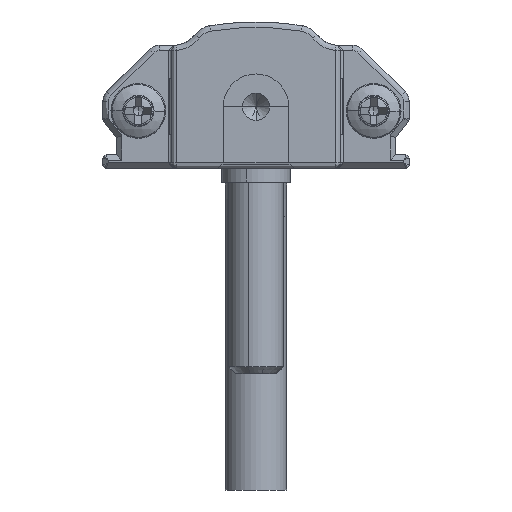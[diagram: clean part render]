
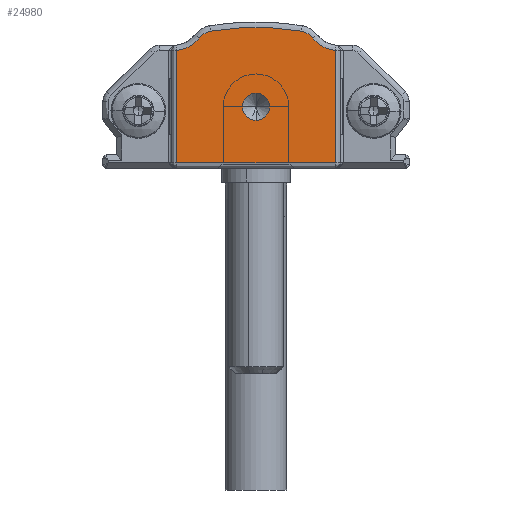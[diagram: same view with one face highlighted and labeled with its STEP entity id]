
A CAD part, front view. The second image highlights one B-rep face of the part: STEP entity #24980.
In plain terms, the highlighted planar face has unit normal (0, -1, 0).
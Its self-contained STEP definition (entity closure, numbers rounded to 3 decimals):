
#325 = AXIS2_PLACEMENT_3D ( 'NONE', #24489, #22154, #24653 ) ;
#595 = CIRCLE ( 'NONE', #7579, 1. ) ;
#795 = CIRCLE ( 'NONE', #23765, 2.4 ) ;
#920 = DIRECTION ( 'NONE',  ( 0., -1., 0. ) ) ;
#1006 = VERTEX_POINT ( 'NONE', #32678 ) ;
#1010 = VERTEX_POINT ( 'NONE', #18860 ) ;
#1564 = VERTEX_POINT ( 'NONE', #16534 ) ;
#1835 = CARTESIAN_POINT ( 'NONE',  ( 14.508, -15., 10.034 ) ) ;
#1879 = EDGE_CURVE ( 'NONE', #9264, #24575, #11263, .T. ) ;
#2584 = AXIS2_PLACEMENT_3D ( 'NONE', #27669, #4766, #19806 ) ;
#3372 = AXIS2_PLACEMENT_3D ( 'NONE', #29374, #920, #13624 ) ;
#4047 = DIRECTION ( 'NONE',  ( 0., 0., -1. ) ) ;
#4766 = DIRECTION ( 'NONE',  ( 0., -1., 0. ) ) ;
#4857 = AXIS2_PLACEMENT_3D ( 'NONE', #12979, #23840, #25864 ) ;
#4992 = ORIENTED_EDGE ( 'NONE', *, *, #1879, .T. ) ;
#5084 = EDGE_LOOP ( 'NONE', ( #18666, #14431 ) ) ;
#5300 = AXIS2_PLACEMENT_3D ( 'NONE', #9245, #9573, #4047 ) ;
#5395 = VECTOR ( 'NONE', #18842, 1000. ) ;
#6004 = EDGE_CURVE ( 'NONE', #24575, #21968, #23463, .T. ) ;
#6293 = CARTESIAN_POINT ( 'NONE',  ( 5.162, -15., 11. ) ) ;
#7579 = AXIS2_PLACEMENT_3D ( 'NONE', #32863, #20148, #10316 ) ;
#8137 = VECTOR ( 'NONE', #28143, 1000. ) ;
#8553 = DIRECTION ( 'NONE',  ( 1., 0., 0. ) ) ;
#9177 = CARTESIAN_POINT ( 'NONE',  ( 17., -15., 8.612 ) ) ;
#9245 = CARTESIAN_POINT ( 'NONE',  ( 14.3, -15., 8.75 ) ) ;
#9264 = VERTEX_POINT ( 'NONE', #9177 ) ;
#9270 = ORIENTED_EDGE ( 'NONE', *, *, #17129, .T. ) ;
#9573 = DIRECTION ( 'NONE',  ( 0., -1., 0. ) ) ;
#9921 = AXIS2_PLACEMENT_3D ( 'NONE', #27300, #17599, #12096 ) ;
#10316 = DIRECTION ( 'NONE',  ( 0., 0., -1. ) ) ;
#10467 = VECTOR ( 'NONE', #8553, 1000. ) ;
#10973 = DIRECTION ( 'NONE',  ( 0., 0., -1. ) ) ;
#11263 = CIRCLE ( 'NONE', #4857, 2.4 ) ;
#12096 = DIRECTION ( 'NONE',  ( 0., 0., -1. ) ) ;
#12883 = VERTEX_POINT ( 'NONE', #20244 ) ;
#12979 = CARTESIAN_POINT ( 'NONE',  ( 17.238, -15., 11. ) ) ;
#13213 = ORIENTED_EDGE ( 'NONE', *, *, #20347, .T. ) ;
#13423 = EDGE_CURVE ( 'NONE', #21968, #1006, #17778, .T. ) ;
#13624 = DIRECTION ( 'NONE',  ( 0., 0., -1. ) ) ;
#14047 = ORIENTED_EDGE ( 'NONE', *, *, #13423, .T. ) ;
#14431 = ORIENTED_EDGE ( 'NONE', *, *, #23759, .F. ) ;
#15411 = LINE ( 'NONE', #22795, #8137 ) ;
#15735 = CIRCLE ( 'NONE', #9921, 1. ) ;
#16159 = FACE_BOUND ( 'NONE', #5084, .T. ) ;
#16534 = CARTESIAN_POINT ( 'NONE',  ( 5.4, -15., 8.612 ) ) ;
#16962 = PLANE ( 'NONE',  #325 ) ;
#17129 = EDGE_CURVE ( 'NONE', #19983, #1564, #795, .T. ) ;
#17553 = ORIENTED_EDGE ( 'NONE', *, *, #20706, .T. ) ;
#17599 = DIRECTION ( 'NONE',  ( 0., -1., 0. ) ) ;
#17778 = CIRCLE ( 'NONE', #3372, 20.676 ) ;
#18086 = VERTEX_POINT ( 'NONE', #20929 ) ;
#18459 = CARTESIAN_POINT ( 'NONE',  ( 17., -15., 0.4 ) ) ;
#18609 = EDGE_CURVE ( 'NONE', #1006, #19983, #31415, .T. ) ;
#18666 = ORIENTED_EDGE ( 'NONE', *, *, #20531, .F. ) ;
#18842 = DIRECTION ( 'NONE',  ( 0., 0., 1. ) ) ;
#18860 = CARTESIAN_POINT ( 'NONE',  ( 5.4, -15., 0.4 ) ) ;
#19006 = LINE ( 'NONE', #31392, #5395 ) ;
#19806 = DIRECTION ( 'NONE',  ( 0., 0., -1. ) ) ;
#19816 = VERTEX_POINT ( 'NONE', #18459 ) ;
#19983 = VERTEX_POINT ( 'NONE', #23237 ) ;
#20148 = DIRECTION ( 'NONE',  ( 0., -1., 0. ) ) ;
#20244 = CARTESIAN_POINT ( 'NONE',  ( 11.2, -15., 5.5 ) ) ;
#20347 = EDGE_CURVE ( 'NONE', #19816, #9264, #19006, .T. ) ;
#20531 = EDGE_CURVE ( 'NONE', #18086, #12883, #595, .T. ) ;
#20706 = EDGE_CURVE ( 'NONE', #1564, #1010, #15411, .T. ) ;
#20929 = CARTESIAN_POINT ( 'NONE',  ( 11.2, -15., 3.5 ) ) ;
#21216 = LINE ( 'NONE', #31116, #10467 ) ;
#21342 = FACE_OUTER_BOUND ( 'NONE', #23743, .T. ) ;
#21964 = ORIENTED_EDGE ( 'NONE', *, *, #24668, .T. ) ;
#21968 = VERTEX_POINT ( 'NONE', #1835 ) ;
#22154 = DIRECTION ( 'NONE',  ( 0., -1., 0. ) ) ;
#22795 = CARTESIAN_POINT ( 'NONE',  ( 5.4, -15., 0.4 ) ) ;
#23237 = CARTESIAN_POINT ( 'NONE',  ( 7.068, -15., 9.541 ) ) ;
#23463 = CIRCLE ( 'NONE', #5300, 1.3 ) ;
#23743 = EDGE_LOOP ( 'NONE', ( #13213, #4992, #25663, #14047, #24245, #9270, #17553, #21964 ) ) ;
#23759 = EDGE_CURVE ( 'NONE', #12883, #18086, #15735, .T. ) ;
#23765 = AXIS2_PLACEMENT_3D ( 'NONE', #6293, #32010, #10973 ) ;
#23840 = DIRECTION ( 'NONE',  ( 0., 1., 0. ) ) ;
#24245 = ORIENTED_EDGE ( 'NONE', *, *, #18609, .T. ) ;
#24489 = CARTESIAN_POINT ( 'NONE',  ( 22.15, -15., 3.606 ) ) ;
#24575 = VERTEX_POINT ( 'NONE', #31791 ) ;
#24653 = DIRECTION ( 'NONE',  ( 0., 0., -1. ) ) ;
#24668 = EDGE_CURVE ( 'NONE', #1010, #19816, #21216, .T. ) ;
#24980 = ADVANCED_FACE ( 'NONE', ( #21342, #16159 ), #16962, .T. ) ;
#25663 = ORIENTED_EDGE ( 'NONE', *, *, #6004, .T. ) ;
#25864 = DIRECTION ( 'NONE',  ( 0., 0., -1. ) ) ;
#27300 = CARTESIAN_POINT ( 'NONE',  ( 11.2, -15., 4.5 ) ) ;
#27669 = CARTESIAN_POINT ( 'NONE',  ( 8.1, -15., 8.75 ) ) ;
#28143 = DIRECTION ( 'NONE',  ( 0., 0., -1. ) ) ;
#29374 = CARTESIAN_POINT ( 'NONE',  ( 11.2, -15., -10.376 ) ) ;
#31116 = CARTESIAN_POINT ( 'NONE',  ( 17., -15., 0.4 ) ) ;
#31392 = CARTESIAN_POINT ( 'NONE',  ( 17., -15., 8.612 ) ) ;
#31415 = CIRCLE ( 'NONE', #2584, 1.3 ) ;
#31791 = CARTESIAN_POINT ( 'NONE',  ( 15.332, -15., 9.541 ) ) ;
#32010 = DIRECTION ( 'NONE',  ( 0., 1., 0. ) ) ;
#32678 = CARTESIAN_POINT ( 'NONE',  ( 7.892, -15., 10.034 ) ) ;
#32863 = CARTESIAN_POINT ( 'NONE',  ( 11.2, -15., 4.5 ) ) ;
